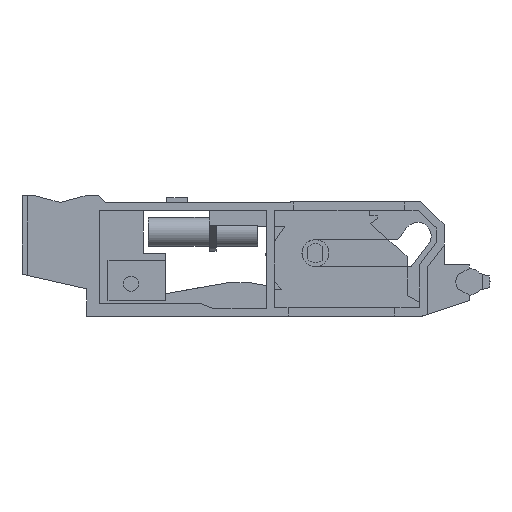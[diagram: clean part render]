
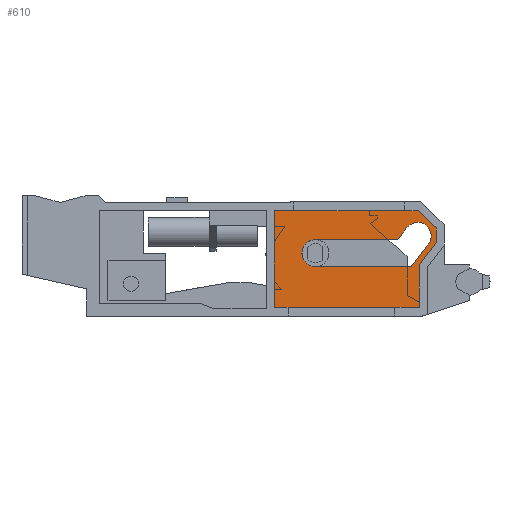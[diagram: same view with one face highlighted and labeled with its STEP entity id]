
A CAD part, left-side view. The second image highlights one B-rep face of the part: STEP entity #610.
In plain terms, the highlighted planar face has unit normal (-1, 0, 0).
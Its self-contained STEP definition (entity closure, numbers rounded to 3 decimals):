
#610 = ADVANCED_FACE( '', ( #1471, #1472 ), #1473, .F. );
#1471 = FACE_BOUND( '', #2603, .T. );
#1472 = FACE_OUTER_BOUND( '', #2604, .T. );
#1473 = PLANE( '', #2605 );
#2603 = EDGE_LOOP( '', ( #4261, #4262, #4263, #4264, #4265, #4266 ) );
#2604 = EDGE_LOOP( '', ( #4267, #4268, #4269, #4270, #4271, #4272, #4273 ) );
#2605 = AXIS2_PLACEMENT_3D( '', #4274, #4275, #4276 );
#4261 = ORIENTED_EDGE( '', *, *, #7491, .T. );
#4262 = ORIENTED_EDGE( '', *, *, #7492, .T. );
#4263 = ORIENTED_EDGE( '', *, *, #7493, .T. );
#4264 = ORIENTED_EDGE( '', *, *, #7200, .T. );
#4265 = ORIENTED_EDGE( '', *, *, #7039, .T. );
#4266 = ORIENTED_EDGE( '', *, *, #7494, .T. );
#4267 = ORIENTED_EDGE( '', *, *, #7495, .F. );
#4268 = ORIENTED_EDGE( '', *, *, #7496, .F. );
#4269 = ORIENTED_EDGE( '', *, *, #7497, .F. );
#4270 = ORIENTED_EDGE( '', *, *, #7498, .F. );
#4271 = ORIENTED_EDGE( '', *, *, #7499, .F. );
#4272 = ORIENTED_EDGE( '', *, *, #7500, .F. );
#4273 = ORIENTED_EDGE( '', *, *, #7501, .F. );
#4274 = CARTESIAN_POINT( '', ( 13.5, 0., 0. ) );
#4275 = DIRECTION( '', ( 1., 0., 0. ) );
#4276 = DIRECTION( '', ( 0., 0., -1. ) );
#7039 = EDGE_CURVE( '', #8475, #8476, #8477, .T. );
#7200 = EDGE_CURVE( '', #8762, #8475, #8763, .T. );
#7491 = EDGE_CURVE( '', #9242, #9243, #9244, .T. );
#7492 = EDGE_CURVE( '', #9243, #9245, #9246, .T. );
#7493 = EDGE_CURVE( '', #9245, #8762, #9247, .T. );
#7494 = EDGE_CURVE( '', #8476, #9242, #9248, .T. );
#7495 = EDGE_CURVE( '', #9249, #9250, #9251, .T. );
#7496 = EDGE_CURVE( '', #9252, #9249, #9253, .T. );
#7497 = EDGE_CURVE( '', #9254, #9252, #9255, .T. );
#7498 = EDGE_CURVE( '', #9256, #9254, #9257, .T. );
#7499 = EDGE_CURVE( '', #9258, #9256, #9259, .T. );
#7500 = EDGE_CURVE( '', #9260, #9258, #9261, .T. );
#7501 = EDGE_CURVE( '', #9250, #9260, #9262, .T. );
#8475 = VERTEX_POINT( '', #10607 );
#8476 = VERTEX_POINT( '', #10608 );
#8477 = CIRCLE( '', #10609, 3.55 );
#8762 = VERTEX_POINT( '', #11008 );
#8763 = LINE( '', #11009, #11010 );
#9242 = VERTEX_POINT( '', #11699 );
#9243 = VERTEX_POINT( '', #11700 );
#9244 = LINE( '', #11701, #11702 );
#9245 = VERTEX_POINT( '', #11703 );
#9246 = CIRCLE( '', #11704, 3.56 );
#9247 = LINE( '', #11705, #11706 );
#9248 = LINE( '', #11707, #11708 );
#9249 = VERTEX_POINT( '', #11709 );
#9250 = VERTEX_POINT( '', #11710 );
#9251 = LINE( '', #11711, #11712 );
#9252 = VERTEX_POINT( '', #11713 );
#9253 = LINE( '', #11714, #11715 );
#9254 = VERTEX_POINT( '', #11716 );
#9255 = LINE( '', #11717, #11718 );
#9256 = VERTEX_POINT( '', #11719 );
#9257 = LINE( '', #11720, #11721 );
#9258 = VERTEX_POINT( '', #11722 );
#9259 = LINE( '', #11723, #11724 );
#9260 = VERTEX_POINT( '', #11725 );
#9261 = LINE( '', #11726, #11727 );
#9262 = LINE( '', #11728, #11729 );
#10607 = CARTESIAN_POINT( '', ( 13.5, 40.2, 3.95 ) );
#10608 = CARTESIAN_POINT( '', ( 13.5, 40.2, 11.05 ) );
#10609 = AXIS2_PLACEMENT_3D( '', #13633, #13634, #13635 );
#11008 = CARTESIAN_POINT( '', ( 13.5, 15.191, 3.95 ) );
#11009 = CARTESIAN_POINT( '', ( 13.5, 15.191, 3.95 ) );
#11010 = VECTOR( '', #13800, 1000. );
#11699 = CARTESIAN_POINT( '', ( 13.5, 18.698, 11.05 ) );
#11700 = CARTESIAN_POINT( '', ( 13.5, 16.327, 14.148 ) );
#11701 = CARTESIAN_POINT( '', ( 13.5, 18.698, 11.05 ) );
#11702 = VECTOR( '', #14083, 1000. );
#11703 = CARTESIAN_POINT( '', ( 13.5, 10.918, 9.534 ) );
#11704 = AXIS2_PLACEMENT_3D( '', #14084, #14085, #14086 );
#11705 = CARTESIAN_POINT( '', ( 13.5, 10.918, 9.534 ) );
#11706 = VECTOR( '', #14087, 1000. );
#11707 = CARTESIAN_POINT( '', ( 13.5, 40.2, 11.05 ) );
#11708 = VECTOR( '', #14088, 1000. );
#11709 = CARTESIAN_POINT( '', ( 13.5, 51., 18.65 ) );
#11710 = CARTESIAN_POINT( '', ( 13.5, 13.285, 18.65 ) );
#11711 = CARTESIAN_POINT( '', ( 13.5, 51., 18.65 ) );
#11712 = VECTOR( '', #14089, 1000. );
#11713 = CARTESIAN_POINT( '', ( 13.5, 51., -6.7 ) );
#11714 = CARTESIAN_POINT( '', ( 13.5, 51., -6.7 ) );
#11715 = VECTOR( '', #14090, 1000. );
#11716 = CARTESIAN_POINT( '', ( 13.5, 13., -6.7 ) );
#11717 = CARTESIAN_POINT( '', ( 13.5, 13., -6.7 ) );
#11718 = VECTOR( '', #14091, 1000. );
#11719 = CARTESIAN_POINT( '', ( 13.5, 13., 4.516 ) );
#11720 = CARTESIAN_POINT( '', ( 13.5, 13., 4.516 ) );
#11721 = VECTOR( '', #14092, 1000. );
#11722 = CARTESIAN_POINT( '', ( 13.5, 8.55, 10.301 ) );
#11723 = CARTESIAN_POINT( '', ( 13.5, 8.55, 10.301 ) );
#11724 = VECTOR( '', #14093, 1000. );
#11725 = CARTESIAN_POINT( '', ( 13.5, 8.55, 14.09 ) );
#11726 = CARTESIAN_POINT( '', ( 13.5, 8.55, 14.09 ) );
#11727 = VECTOR( '', #14094, 1000. );
#11728 = CARTESIAN_POINT( '', ( 13.5, 13.285, 18.65 ) );
#11729 = VECTOR( '', #14095, 1000. );
#13633 = CARTESIAN_POINT( '', ( 13.5, 40.2, 7.5 ) );
#13634 = DIRECTION( '', ( 1., 0., 0. ) );
#13635 = DIRECTION( '', ( 0., 0., -1. ) );
#13800 = DIRECTION( '', ( 0., 1., 0. ) );
#14083 = DIRECTION( '', ( 0., -0.608, 0.794 ) );
#14084 = CARTESIAN_POINT( '', ( 13.5, 13.5, 11.985 ) );
#14085 = DIRECTION( '', ( 1., 0., 0. ) );
#14086 = DIRECTION( '', ( 0., 0., -1. ) );
#14087 = DIRECTION( '', ( 0., 0.608, -0.794 ) );
#14088 = DIRECTION( '', ( 0., -1., 0. ) );
#14089 = DIRECTION( '', ( 0., -1., 0. ) );
#14090 = DIRECTION( '', ( 0., 0., 1. ) );
#14091 = DIRECTION( '', ( 0., 1., 0. ) );
#14092 = DIRECTION( '', ( 0., 0., -1. ) );
#14093 = DIRECTION( '', ( 0., 0.61, -0.793 ) );
#14094 = DIRECTION( '', ( 0., 0., -1. ) );
#14095 = DIRECTION( '', ( 0., -0.72, -0.694 ) );
